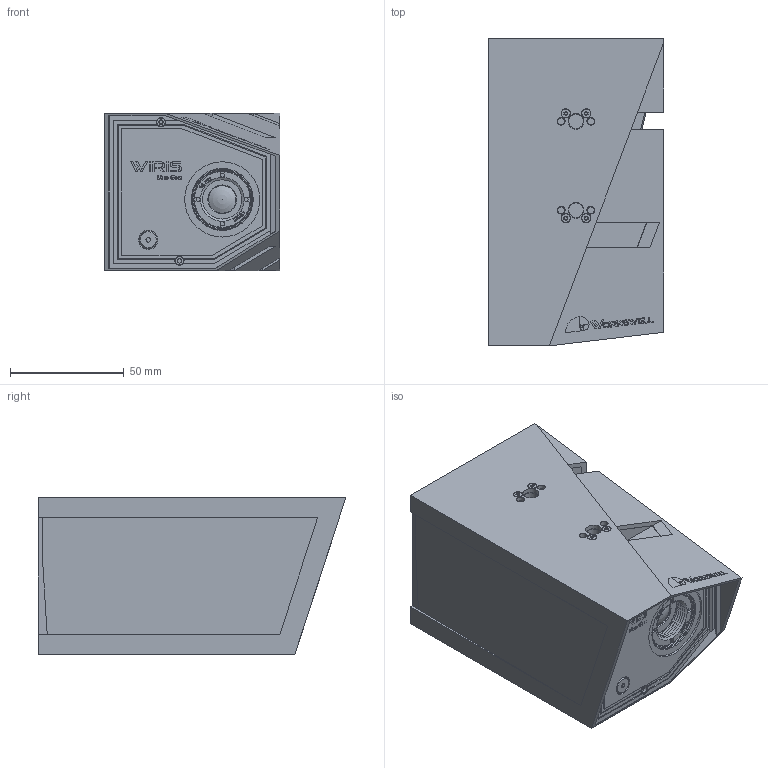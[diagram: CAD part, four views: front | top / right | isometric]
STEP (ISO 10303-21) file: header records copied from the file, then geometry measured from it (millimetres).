
FILE_DESCRIPTION(/* description */ (''),/* implementation_level */ '2;1');
FILE_NAME(/* name */ 'D:\WIRIS-2ND-GEN-STEP-170301.stp',/* time_stamp */ '2017-09-22T16:23:38+02:00',/* author */ ('JiriDoskocil'),/* organization */ (''),/* preprocessor_version */ 'ST-DEVELOPER v16.1',/* originating_system */ 'Autodesk Inventor 2016',/* authorisation */ '');
FILE_SCHEMA (('AUTOMOTIVE_DESIGN { 1 0 10303 214 3 1 1 }'));
Products named in the file (1): WIRIS-2ND-GEN-STEP-170301
Bounding box: 77 x 135.04 x 69 mm (x, y, z)
Volume: 286786.4 mm3; surface area: 136324 mm2
Topology: 3 solids, 58 shells, 3438 faces, 9109 edges, 6078 vertices
Faces by surface type: plane 2252, bspline 558, cylinder 531, cone 79, torus 14, sphere 4
Full cylindrical faces by diameter (mm): 0.105 x1, 0.385 x1, 1 x1, 1.567 x2, 1.8 x2, 1.81 x17, 2 x16, 2.2 x18, 2.4 x1, 2.6 x5, 3 x8, 3.2 x4, 3.4 x8, 3.5 x1, 3.6 x2, 3.8 x16, 4 x3, 5 x1, 5.2 x2, 5.5 x1, 5.8 x1, 6.35 x1, 6.4 x3, 7 x4, 7.8 x2, 8 x1, 8.3 x1, 8.7 x1, 9 x1, 9.5 x1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
Entity records: 114238 total; most frequent: CARTESIAN_POINT 30421, ORIENTED_EDGE 17644, DIRECTION 14494, EDGE_CURVE 8820, LINE 6376, VECTOR 6376, VERTEX_POINT 6006, AXIS2_PLACEMENT_3D 4059
